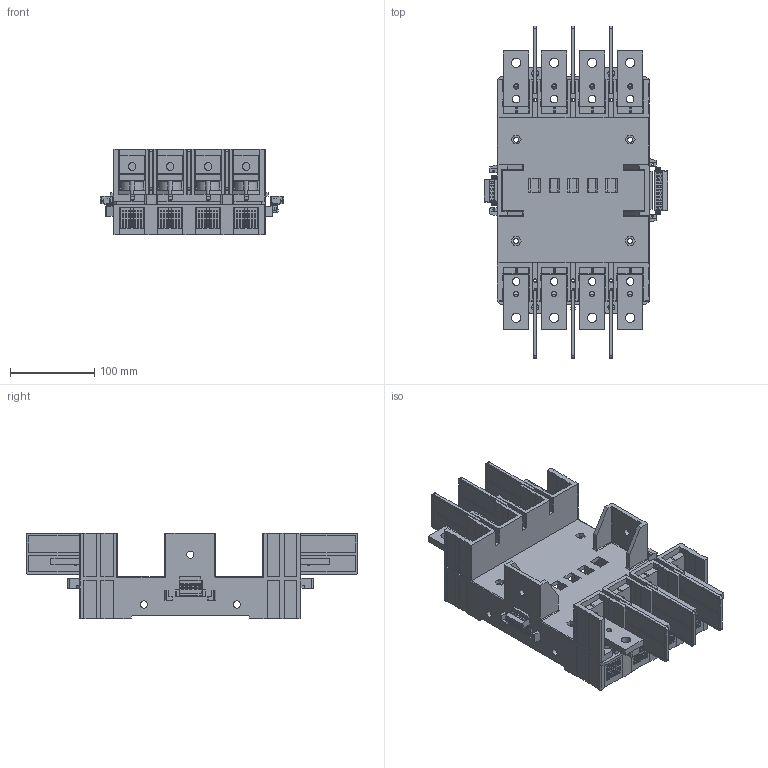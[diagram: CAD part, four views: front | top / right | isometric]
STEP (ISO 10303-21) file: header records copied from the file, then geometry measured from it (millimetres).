
FILE_DESCRIPTION (( 'STEP AP203' ), '1' );
FILE_NAME ('NDM5-400-4P-P1FH-等黃蜇璃.STEP', '2023-11-10T10:50:52', ( '' ), ( '' ), 'SwSTEP 2.0', 'SolidWorks 2018', '' );
FILE_SCHEMA (( 'CONFIG_CONTROL_DESIGN' ));
Products named in the file (1): NDM5-400-4P-P1FH-等黃蜇璃___t___t
Bounding box: 216.7 x 393 x 101.5 mm (x, y, z)
Volume: 1203401.9 mm3; surface area: 585585.9 mm2
Topology: 31 solids, 31 shells, 4813 faces, 13316 edges, 8728 vertices
Faces by surface type: plane 3153, cylinder 1500, bspline 72, torus 70, cone 16, sphere 2
Entity records: 160793 total; most frequent: CARTESIAN_POINT 34584, ORIENTED_EDGE 26628, DIRECTION 25710, EDGE_CURVE 13314, VECTOR 9846, LINE 9846, VERTEX_POINT 8728, AXIS2_PLACEMENT_3D 7932
